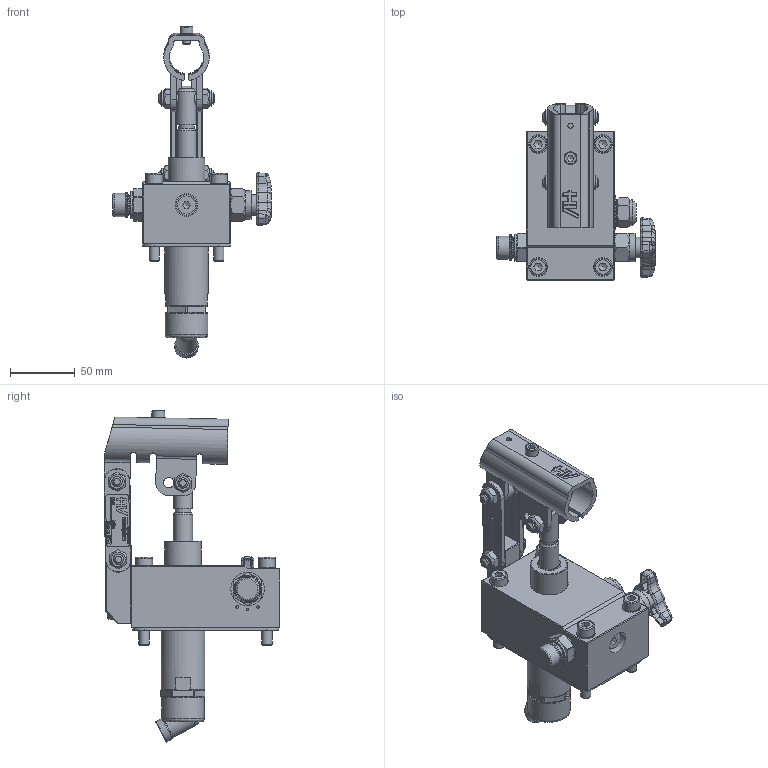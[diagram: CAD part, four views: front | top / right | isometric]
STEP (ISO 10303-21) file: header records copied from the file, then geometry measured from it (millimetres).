
FILE_DESCRIPTION((''),'2;1');
FILE_NAME('G:\HV_HYDRAULIC\AZIENDA_HV_HYDRAULIC\ARCHIVIO_DISEGNI\5_PRODOTTI_FINITI\1_POMPE_MANUALI\6050_PM_12\6050.7001_PM_12_byB_(HV)_(AISI_316)_(Viton)\6050.7001.stp','2024-02-28T08:18:17',('christian.scardovi'),(''),'Autodesk Inventor 2013','Autodesk Inventor 2013','');
FILE_SCHEMA(('AUTOMOTIVE_DESIGN { 1 0 10303 214 1 1 1 1 }'));
Length unit declared in the file: millimetre
Products named in the file (1): 6050.7001
Bounding box: 122.5 x 135.99 x 256.81 mm (x, y, z)
Volume: 537907.1 mm3; surface area: 119152.3 mm2
Topology: 1 solids, 1 shells, 1611 faces, 3986 edges, 2498 vertices
Faces by surface type: plane 774, cylinder 325, bspline 233, cone 156, torus 119, sphere 4
Full cylindrical faces by diameter (mm): 2 x6, 4 x5, 5 x3, 6 x1, 6.5 x2, 6.8 x2, 8 x15, 8.917 x1, 9 x2, 9.2 x1, 10 x2, 10.376 x1, 11.05 x6, 12 x6, 13 x6, 13.2 x1, 14 x3, 14.5 x5, 14.6 x1, 14.95 x4, 15 x3, 16 x4, 16.6 x3, 17 x3, 17.5 x1, 18 x6, 20 x5, 21 x3, 21.8 x2, 22 x3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
Entity records: 53759 total; most frequent: CARTESIAN_POINT 17740, ORIENTED_EDGE 7282, DIRECTION 6696, EDGE_CURVE 3641, AXIS2_PLACEMENT_3D 2407, VERTEX_POINT 2403, EDGE_LOOP 2004, VECTOR 1882
